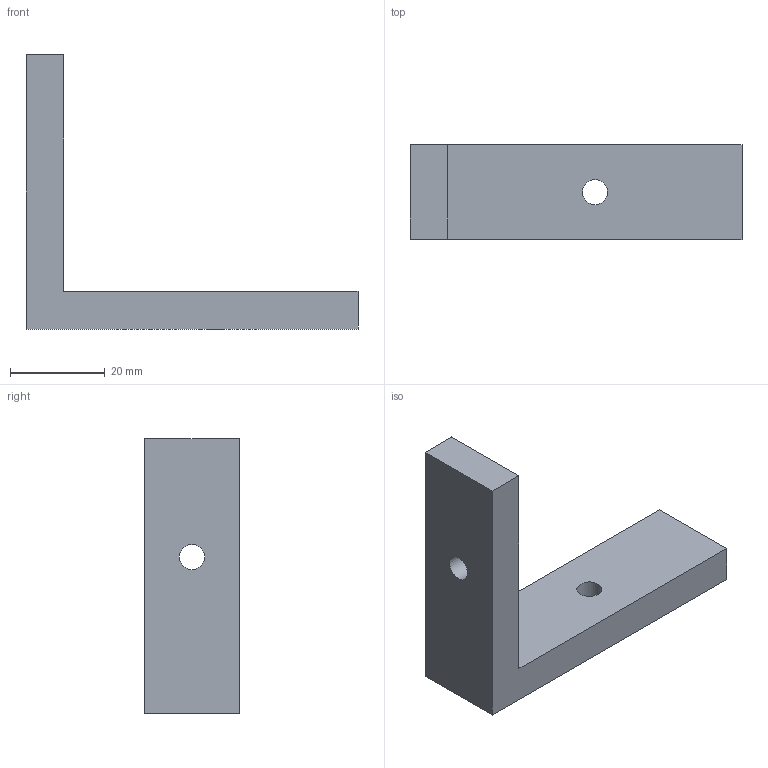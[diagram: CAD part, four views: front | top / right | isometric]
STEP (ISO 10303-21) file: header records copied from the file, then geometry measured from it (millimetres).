
FILE_DESCRIPTION(('Mechanical CAD reference from nasji.com'),'2;1');
FILE_NAME('NASJI.step','',(''),(''),'','NASJI distribution','');
FILE_SCHEMA(('AUTOMOTIVE_DESIGN { 1 0 10303 214 1 1 1 1 }'));
Length unit declared in the file: millimetre
Products named in the file (1): Open CASCADE STEP translator 7.8 148
Bounding box: 70 x 20 x 57.8 mm (x, y, z)
Volume: 18815 mm3; surface area: 7207 mm2
Topology: 1 solids, 1 shells, 10 faces, 24 edges, 16 vertices
Faces by surface type: plane 8, cylinder 2
Full cylindrical faces by diameter (mm): 5.3 x2
Entity records: 626 total; most frequent: CARTESIAN_POINT 113, DIRECTION 94, LINE 62, VECTOR 62, ORIENTED_EDGE 48, PCURVE 48, DEFINITIONAL_REPRESENTATION 48, EDGE_CURVE 24
